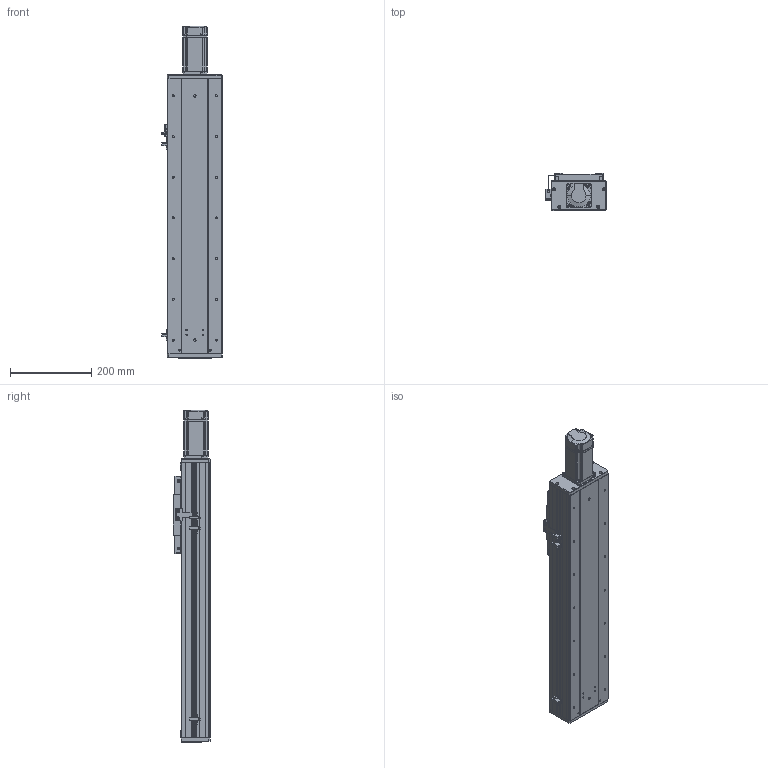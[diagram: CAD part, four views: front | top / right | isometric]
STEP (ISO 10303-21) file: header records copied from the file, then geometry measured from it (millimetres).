
FILE_DESCRIPTION (( 'STEP AP203' ), '1' );
FILE_NAME ('RY140F-L2020-300-MK.SLDASM_400.step', '2021-03-02T06:23:49', ( '盈信电脑' ), ( '东莞市道滘镇水果街19号' ), 'SwSTEP 2.0', 'SolidWorks 2012', '' );
FILE_SCHEMA (( 'CONFIG_CONTROL_DESIGN' ));
Length unit declared in the file: millimetre
Products named in the file (18): RY140F-L2020-300-MK.SLDASM_400; 滅袉蝶18-10; 侐源滅袉蝶; RY140F-詩湍揤え; RY140F-672覜茼んえ; RY140F-后盖板(铝件）; 15; 侂狟400W侜督萇儂; 覜茼ん672; RY140F-直连前盖板(铝件）; RY140F-直连型材铝滑块(16丝杆); RY100F-詩湍揤踡謫; RY140F-詩湍幗謫粣; RY140F-滅鳥奻裔; RY140F-直连型材铝滑块连接座; RY140F-300-MK眻蟀詩湍_400; RY140F-300-MK眻蟀倰第奻裔啣_400; RY140F-300-MK眻蟀倰第菁釱_400
Assembly tree (22 placements, depth 3):
  RY140F-L2020-300-MK.SLDASM_400
    RY140F-300-MK眻蟀倰第菁釱_400
    RY140F-300-MK眻蟀倰第奻裔啣_400  x2
    RY140F-300-MK眻蟀詩湍_400
    RY140F-直连型材铝滑块连接座
    RY140F-滅鳥奻裔
    RY140F-詩湍幗謫粣
    RY100F-詩湍揤踡謫
    RY140F-直连型材铝滑块(16丝杆)
    RY140F-直连前盖板(铝件）
    RY140F-后盖板(铝件）
    侂狟400W侜督萇儂
      15
    覜茼ん672  x3
    RY140F-672覜茼んえ
    RY140F-詩湍揤え  x2
    滅袉蝶18-10
    侐源滅袉蝶  x2
Bounding box: 148.7 x 91 x 815.5 mm (x, y, z)
Volume: 2980184.1 mm3; surface area: 1006702.7 mm2
Topology: 21 solids, 21 shells, 1908 faces, 5257 edges, 3382 vertices
Faces by surface type: cylinder 862, plane 854, cone 170, bspline 18, torus 4
Entity records: 55346 total; most frequent: CARTESIAN_POINT 11155, DIRECTION 8988, ORIENTED_EDGE 8678, EDGE_CURVE 4339, AXIS2_PLACEMENT_3D 3203, VERTEX_POINT 2850, VECTOR 2582, LINE 2582
